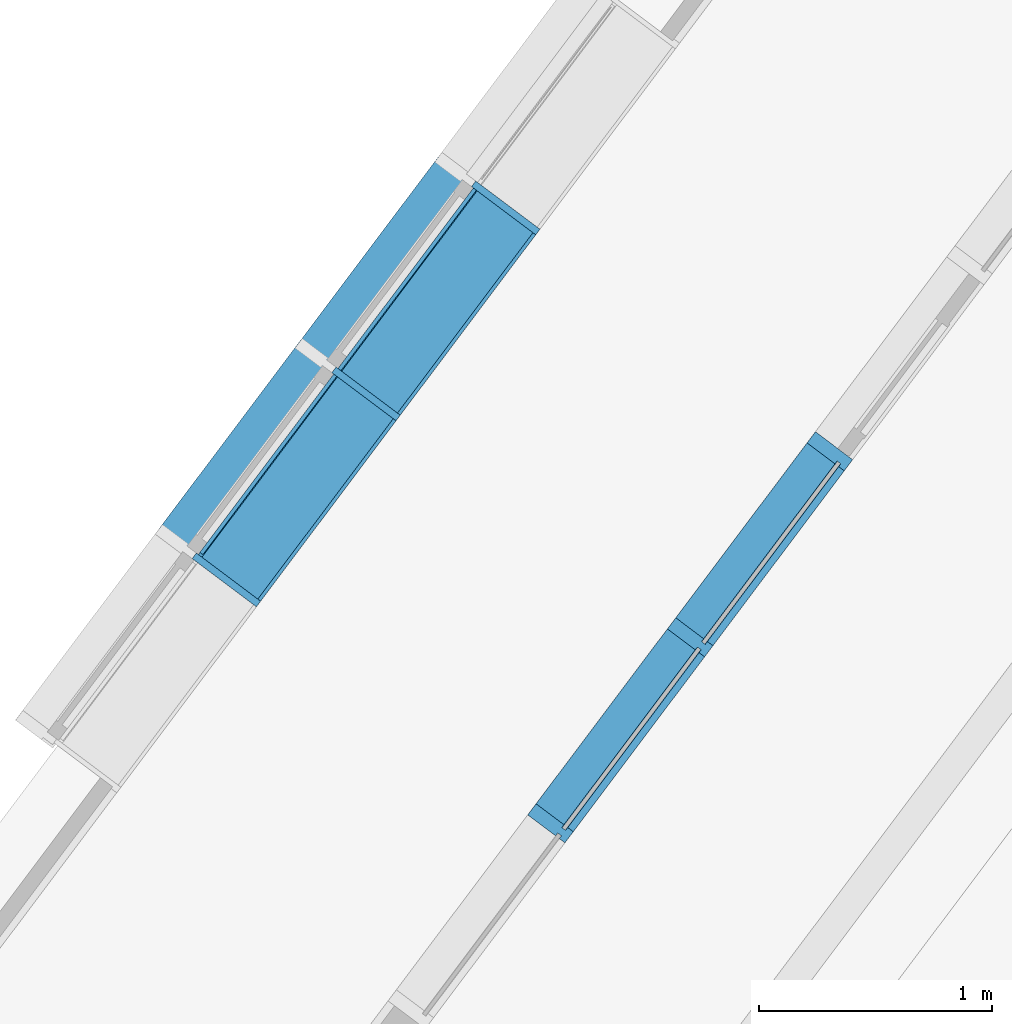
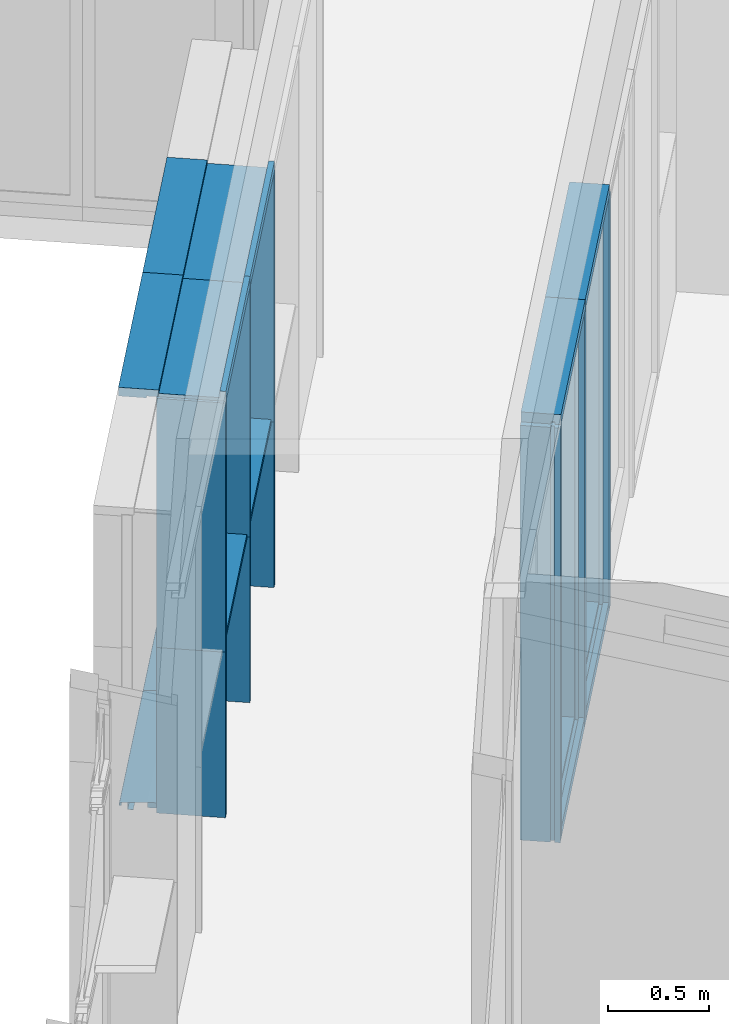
# One storey, part 51 of 243: 21 members, 3 elements without a shape of their own.
"""IFC2X3 building model written with IfcOpenShell, lengths in metres."""

from ifc_helpers import new_model, entity, si_unit, converted_unit, derived_unit, direction, frame, frame_2d, origin, place, context, subcontext, project, spatial, polyline, circle_curve, parameter, trimmed, segment, composite_curve, rectangle, outline, extrude, source, transform, mapped, material, type_object, type_shapes, element, aggregate, save


model = new_model("IFC2X3")

# Units and contexts
model_context = context("Model", 3, precision=1e-05, world=origin(), true_north=direction((6.123031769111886e-17, 1.0)))
body_context = subcontext(model_context, "Body", "Model", "MODEL_VIEW")
ifc_project = project(units=[si_unit("LENGTHUNIT", "METRE"), si_unit("AREAUNIT", "SQUARE_METRE"), si_unit("VOLUMEUNIT", "CUBIC_METRE"), converted_unit("PLANEANGLEUNIT", "DEGREE", entity("IfcRatioMeasure", 0.017453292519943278), si_unit("PLANEANGLEUNIT", "RADIAN"), dimensions=[0, 0, 0, 0, 0, 0, 0]), si_unit("MASSUNIT", "GRAM", prefix="KILO"), derived_unit("MASSDENSITYUNIT", [(si_unit("MASSUNIT", "GRAM", prefix="KILO"), 1), (si_unit("LENGTHUNIT", "METRE"), -3)]), derived_unit("IONCONCENTRATIONUNIT", [(si_unit("MASSUNIT", "GRAM", prefix="KILO"), 1), (si_unit("LENGTHUNIT", "METRE"), -3)]), derived_unit("MOMENTOFINERTIAUNIT", [(si_unit("LENGTHUNIT", "METRE"), 4)]), si_unit("TIMEUNIT", "SECOND"), si_unit("FREQUENCYUNIT", "HERTZ"), si_unit("THERMODYNAMICTEMPERATUREUNIT", "DEGREE_CELSIUS"), derived_unit("THERMALTRANSMITTANCEUNIT", [(si_unit("MASSUNIT", "GRAM", prefix="KILO"), 1), (si_unit("THERMODYNAMICTEMPERATUREUNIT", "KELVIN"), -1), (si_unit("TIMEUNIT", "SECOND"), -3)]), derived_unit("THERMALCONDUCTANCEUNIT", [(si_unit("MASSUNIT", "GRAM", prefix="KILO"), 1), (si_unit("THERMODYNAMICTEMPERATUREUNIT", "KELVIN"), -1), (si_unit("TIMEUNIT", "SECOND"), -3), (si_unit("LENGTHUNIT", "METRE"), 1)]), derived_unit("VOLUMETRICFLOWRATEUNIT", [(si_unit("LENGTHUNIT", "METRE"), 3), (si_unit("TIMEUNIT", "SECOND"), -1)]), derived_unit("MASSFLOWRATEUNIT", [(si_unit("MASSUNIT", "GRAM", prefix="KILO"), 1), (si_unit("TIMEUNIT", "SECOND"), -1)]), derived_unit("ROTATIONALFREQUENCYUNIT", [(si_unit("TIMEUNIT", "SECOND"), -1)]), si_unit("ELECTRICCURRENTUNIT", "AMPERE"), si_unit("ELECTRICVOLTAGEUNIT", "VOLT"), si_unit("POWERUNIT", "WATT"), si_unit("FORCEUNIT", "NEWTON", prefix="KILO"), si_unit("ILLUMINANCEUNIT", "LUX"), si_unit("LUMINOUSFLUXUNIT", "LUMEN"), si_unit("LUMINOUSINTENSITYUNIT", "CANDELA"), derived_unit("USERDEFINED", [(si_unit("MASSUNIT", "GRAM", prefix="KILO"), -1), (si_unit("LENGTHUNIT", "METRE"), -2), (si_unit("TIMEUNIT", "SECOND"), 3), (si_unit("LUMINOUSFLUXUNIT", "LUMEN"), 1)]), derived_unit("USERDEFINED", [(si_unit("MASSUNIT", "GRAM", prefix="KILO"), 1), (si_unit("TIMEUNIT", "SECOND"), -3), (si_unit("LENGTHUNIT", "METRE"), 3), (si_unit("ELECTRICCURRENTUNIT", "AMPERE"), -2)]), derived_unit("SOUNDPOWERUNIT", [(si_unit("MASSUNIT", "GRAM", prefix="KILO"), 1), (si_unit("TIMEUNIT", "SECOND"), -3), (si_unit("LENGTHUNIT", "METRE"), 2)]), derived_unit("SOUNDPRESSUREUNIT", [(si_unit("MASSUNIT", "GRAM", prefix="KILO"), 1), (si_unit("LENGTHUNIT", "METRE"), -1), (si_unit("TIMEUNIT", "SECOND"), -2)]), derived_unit("LINEARVELOCITYUNIT", [(si_unit("LENGTHUNIT", "METRE"), 1), (si_unit("TIMEUNIT", "SECOND"), -1)]), si_unit("PRESSUREUNIT", "PASCAL"), derived_unit("USERDEFINED", [(si_unit("MASSUNIT", "GRAM", prefix="KILO"), 1), (si_unit("LENGTHUNIT", "METRE"), -2), (si_unit("TIMEUNIT", "SECOND"), -2)]), derived_unit("LINEARFORCEUNIT", [(si_unit("MASSUNIT", "GRAM", prefix="KILO"), 1), (si_unit("TIMEUNIT", "SECOND"), -2)]), derived_unit("PLANARFORCEUNIT", [(si_unit("MASSUNIT", "GRAM", prefix="KILO"), 1), (si_unit("LENGTHUNIT", "METRE"), -1), (si_unit("TIMEUNIT", "SECOND"), -2)]), derived_unit("SPECIFICHEATCAPACITYUNIT", [(si_unit("THERMODYNAMICTEMPERATUREUNIT", "KELVIN"), -1), (si_unit("LENGTHUNIT", "METRE"), 2), (si_unit("TIMEUNIT", "SECOND"), -2)]), derived_unit("HEATINGVALUEUNIT", [(si_unit("LENGTHUNIT", "METRE"), 2), (si_unit("TIMEUNIT", "SECOND"), -2)]), derived_unit("VAPORPERMEABILITYUNIT", [(si_unit("LENGTHUNIT", "METRE"), -1), (si_unit("TIMEUNIT", "SECOND"), 1)]), derived_unit("DYNAMICVISCOSITYUNIT", [(si_unit("MASSUNIT", "GRAM", prefix="KILO"), 1), (si_unit("TIMEUNIT", "SECOND"), -1), (si_unit("LENGTHUNIT", "METRE"), -1)]), derived_unit("THERMALEXPANSIONCOEFFICIENTUNIT", [(si_unit("THERMODYNAMICTEMPERATUREUNIT", "KELVIN"), -1)]), derived_unit("MODULUSOFELASTICITYUNIT", [(si_unit("MASSUNIT", "GRAM", prefix="KILO"), 1), (si_unit("LENGTHUNIT", "METRE"), -1), (si_unit("TIMEUNIT", "SECOND"), -2)]), derived_unit("ISOTHERMALMOISTURECAPACITYUNIT", [(si_unit("LENGTHUNIT", "METRE"), 3), (si_unit("MASSUNIT", "GRAM", prefix="KILO"), -1)]), derived_unit("MOISTUREDIFFUSIVITYUNIT", [(si_unit("TIMEUNIT", "SECOND"), -1), (si_unit("LENGTHUNIT", "METRE"), 2)])], contexts=[model_context])

# Site, building, storey
site_placement = place(None, frame((0.0, 0.0, 235.0), z_axis=(0.0, 0.0, 1.0), x_axis=(-0.7996477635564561, 0.6004693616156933, 0.0)))
site = spatial("IfcSite", under=ifc_project, at=site_placement, Name="Default", CompositionType="ELEMENT")
building_placement = place(site_placement, origin())
building = spatial("IfcBuilding", under=site, at=building_placement, CompositionType="ELEMENT")
storey_placement = place(building_placement, origin())
storey = spatial("IfcBuildingStorey", under=building, at=storey_placement, Name="P0- Escola", CompositionType="ELEMENT", Elevation=0.0)

# Curtain wall, members
curtain_wall_type_1 = type_object("IfcCurtainWallType", Name="Muro cortina:MC- INT- a1", PredefinedType="NOTDEFINED")
curtain_wall_1_placement = place(storey_placement, origin())
curtain_wall_1 = element("IfcCurtainWall", 1, at=curtain_wall_1_placement, inside=storey, type_object=curtain_wall_type_1, Name="Muro cortina:MC- INT- a1", ObjectType="Muro cortina:MC- INT- a1")
ifc_material_1 = material(Name="_Fusta massisa- T1")
member_type_1 = type_object("IfcMemberType", Name="Montante rectangular:MC- Fusta- 20x6 cm- Esquerra", PredefinedType="MULLION", material=ifc_material_1)
shared_shape_1 = source(origin(), body_context, "Body", "SweptSolid", [
    extrude(outline(polyline([(-0.07000000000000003, -0.01875000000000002), (-0.04000000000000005, -0.01875000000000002), (-0.04000000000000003, -0.0037500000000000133), (-0.020000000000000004, -0.0037500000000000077), (-0.02, -0.018750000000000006), (0.13, -0.018749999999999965), (0.12999999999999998, 0.04125000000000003), (-0.06999999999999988, 0.04124999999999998), (-0.07000000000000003, -0.01875000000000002)])), frame((-0.01124999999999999, -0.03, -2.5050000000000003), z_axis=(0.0, 0.0, 1.0), x_axis=(0.0, -1.0, 0.0)), (0.0, 0.0, 1.0), 2.5050000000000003),
])
type_shapes(member_type_1, [shared_shape_1])
member_1_placement = place(curtain_wall_1_placement, frame((60.020147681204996, -33.41518997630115, 0.0), z_axis=(0.0, 0.0, -1.0), x_axis=(0.0, -1.0, 0.0)))
member_1 = element("IfcMember", 2, at=member_1_placement, type_object=member_type_1, material=ifc_material_1, Name="Montante rectangular:MC- Fusta- 20x6 cm- Esquerra", ObjectType="Montante rectangular:MC- Fusta- 20x6 cm- Esquerra", context=body_context, shape_type="MappedRepresentation", body=[
    mapped(shared_shape_1, transform((0.0, 0.0, 0.0), scale=1.0)),
])
member_type_2 = type_object("IfcMemberType", Name="Montante rectangular:MC- Fusta- 20x6 cm- Esquerra", PredefinedType="MULLION", material=ifc_material_1)
shared_shape_2 = source(origin(), body_context, "Body", "SweptSolid", [
    extrude(outline(polyline([(-0.07000000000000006, -0.01875000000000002), (-0.04000000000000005, -0.01875000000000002), (-0.04000000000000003, -0.0037500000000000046), (-0.02, -0.0037500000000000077), (-0.019999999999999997, -0.018750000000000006), (0.13, -0.018749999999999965), (0.12999999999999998, 0.04125000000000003), (-0.06999999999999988, 0.04124999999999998), (-0.07000000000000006, -0.01875000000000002)])), frame((-0.041249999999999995, -0.029999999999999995, -1.0), z_axis=(0.0, 0.0, 1.0), x_axis=(0.0, -1.0, 0.0)), (0.0, 0.0, 1.0), 0.9999999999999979),
])
type_shapes(member_type_2, [shared_shape_2])
member_2_placement = place(curtain_wall_1_placement, frame((60.020147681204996, -33.41518997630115, 2.565), z_axis=(0.0, -1.0, 0.0), x_axis=(0.0, 0.0, 1.0)))
member_2 = element("IfcMember", 3, at=member_2_placement, type_object=member_type_2, material=ifc_material_1, Name="Montante rectangular:MC- Fusta- 20x6 cm- Esquerra", ObjectType="Montante rectangular:MC- Fusta- 20x6 cm- Esquerra", context=body_context, shape_type="MappedRepresentation", body=[
    mapped(shared_shape_2, transform((0.0, 0.0, 0.0), scale=1.0)),
])
member_type_3 = type_object("IfcMemberType", Name="Montante rectangular:MC- Fusta- 20x6 cm- Esquerra", PredefinedType="MULLION", material=ifc_material_1)
shared_shape_3 = source(origin(), body_context, "Body", "SweptSolid", [
    extrude(outline(polyline([(-0.07000000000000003, -0.01875000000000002), (-0.04000000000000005, -0.01875000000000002), (-0.04000000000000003, -0.0037500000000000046), (-0.020000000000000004, -0.0037500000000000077), (-0.02, -0.018750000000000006), (0.13, -0.018749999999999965), (0.12999999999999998, 0.04125000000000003), (-0.06999999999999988, 0.04124999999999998), (-0.07000000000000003, -0.01875000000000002)])), frame((-0.041249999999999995, -0.03, -1.0), z_axis=(0.0, 0.0, 1.0), x_axis=(0.0, -1.0, 0.0)), (0.0, 0.0, 1.0), 0.9999999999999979),
])
type_shapes(member_type_3, [shared_shape_3])
member_3_placement = place(curtain_wall_1_placement, frame((60.020147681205, -32.41518997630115, 2.565), z_axis=(0.0, -1.0, 0.0), x_axis=(0.0, 0.0, 1.0)))
member_3 = element("IfcMember", 4, at=member_3_placement, type_object=member_type_3, material=ifc_material_1, Name="Montante rectangular:MC- Fusta- 20x6 cm- Esquerra", ObjectType="Montante rectangular:MC- Fusta- 20x6 cm- Esquerra", context=body_context, shape_type="MappedRepresentation", body=[
    mapped(shared_shape_3, transform((0.0, 0.0, 0.0), scale=1.0)),
])
member_type_4 = type_object("IfcMemberType", Name="Montante rectangular:MC- Fusta- 20x6 cm- Centre", PredefinedType="MULLION", material=ifc_material_1)
shared_shape_4 = source(origin(), body_context, "Body", "SweptSolid", [
    extrude(outline(polyline([(-0.06000000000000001, -0.030000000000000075), (-0.03, -0.030000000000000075), (-0.029999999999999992, -0.015000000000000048), (-0.009999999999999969, -0.01499999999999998), (-0.009999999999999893, -0.030000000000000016), (0.14000000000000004, -0.029999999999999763), (0.13999999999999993, 0.030000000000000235), (-0.010000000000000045, 0.02999999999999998), (-0.01000000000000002, 0.014999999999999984), (-0.030000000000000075, 0.014999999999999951), (-0.03000000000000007, 0.029999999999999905), (-0.059999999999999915, 0.029999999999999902), (-0.06000000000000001, -0.030000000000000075)])), frame((0.0, -0.019999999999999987, -2.505000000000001), z_axis=(0.0, 0.0, 1.0), x_axis=(0.0, -1.0, 0.0)), (0.0, 0.0, 1.0), 2.5050000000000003),
])
type_shapes(member_type_4, [shared_shape_4])
member_4_placement = place(curtain_wall_1_placement, frame((60.020147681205, -32.41518997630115, 0.0), z_axis=(0.0, 0.0, -1.0), x_axis=(0.0, -1.0, 0.0)))
member_4 = element("IfcMember", 5, at=member_4_placement, type_object=member_type_4, material=ifc_material_1, Name="Montante rectangular:MC- Fusta- 20x6 cm- Centre", ObjectType="Montante rectangular:MC- Fusta- 20x6 cm- Centre", context=body_context, shape_type="MappedRepresentation", body=[
    mapped(shared_shape_4, transform((0.0, 0.0, 0.0), scale=1.0)),
])
member_5_placement = place(curtain_wall_1_placement, frame((60.020147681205, -31.415189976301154, 0.0), z_axis=(0.0, 0.0, -1.0), x_axis=(0.0, -1.0, 0.0)))
member_5 = element("IfcMember", 6, at=member_5_placement, type_object=member_type_4, material=ifc_material_1, Name="Montante rectangular:MC- Fusta- 20x6 cm- Centre", ObjectType="Montante rectangular:MC- Fusta- 20x6 cm- Centre", context=body_context, shape_type="MappedRepresentation", body=[
    mapped(shared_shape_4, transform((0.0, 0.0, 0.0), scale=1.0)),
])
member_type_5 = type_object("IfcMemberType", Name="Montante rectangular:MC- Fusta- 20x6 cm- Inferior", PredefinedType="MULLION", material=ifc_material_1)
shared_shape_5 = source(origin(), body_context, "Body", "SweptSolid", [
    extrude(outline(polyline([(-0.06999999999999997, -0.018750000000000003), (-0.039999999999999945, -0.018750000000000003), (-0.03999999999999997, -0.003750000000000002), (-0.019999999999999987, -0.0037500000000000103), (-0.019999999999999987, -0.018750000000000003), (0.13000000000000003, -0.018750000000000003), (0.13000000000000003, 0.041249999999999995), (-0.07000000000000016, 0.041249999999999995), (-0.06999999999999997, -0.018750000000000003)])), frame((-0.041249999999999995, -0.02999999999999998, -0.9399999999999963), z_axis=(0.0, 0.0, 1.0), x_axis=(0.0, -1.0, 0.0)), (0.0, 0.0, 1.0), 0.9399999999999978),
])
type_shapes(member_type_5, [shared_shape_5])
member_6_placement = place(curtain_wall_1_placement, frame((60.020147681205, -32.44518997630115, 0.0), z_axis=(0.0, 1.0, 0.0), x_axis=(0.0, 0.0, -1.0)))
member_6 = element("IfcMember", 7, at=member_6_placement, type_object=member_type_5, material=ifc_material_1, Name="Montante rectangular:MC- Fusta- 20x6 cm- Inferior", ObjectType="Montante rectangular:MC- Fusta- 20x6 cm- Inferior", context=body_context, shape_type="MappedRepresentation", body=[
    mapped(shared_shape_5, transform((0.0, 0.0, 0.0), scale=1.0)),
])
member_7_placement = place(curtain_wall_1_placement, frame((60.020147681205, -31.445189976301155, 0.0), z_axis=(0.0, 1.0, 0.0), x_axis=(0.0, 0.0, -1.0)))
member_7 = element("IfcMember", 8, at=member_7_placement, type_object=member_type_5, material=ifc_material_1, Name="Montante rectangular:MC- Fusta- 20x6 cm- Inferior", ObjectType="Montante rectangular:MC- Fusta- 20x6 cm- Inferior", context=body_context, shape_type="MappedRepresentation", body=[
    mapped(shared_shape_5, transform((0.0, 0.0, 0.0), scale=1.0)),
])
aggregate(curtain_wall_1, [member_2, member_1, member_3, member_4, member_5, member_6, member_7])

curtain_wall_type_2 = type_object("IfcCurtainWallType", Name="Muro cortina:MC- INT- k2", PredefinedType="NOTDEFINED")
curtain_wall_2_placement = place(storey_placement, origin())
curtain_wall_2 = element("IfcCurtainWall", 9, at=curtain_wall_2_placement, inside=storey, type_object=curtain_wall_type_2, Name="Muro cortina:MC- INT- k2", ObjectType="Muro cortina:MC- INT- k2")
member_type_6 = type_object("IfcMemberType", Name="Montante rectangular:MC- Fusta- 35x3 cm- Centre", PredefinedType="MULLION", material=ifc_material_1)
shared_shape_6 = source(origin(), body_context, "Body", "SweptSolid", [
    extrude(rectangle(XDim=0.3450000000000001, YDim=0.030000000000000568, at=frame_2d((0.0, -1.3964523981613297e-16), x_axis=(1.0, 0.0))), frame((0.0, -0.07750000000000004, -1.0), z_axis=(0.0, 0.0, 1.0), x_axis=(0.0, -1.0, 0.0)), (0.0, 0.0, 1.0), 1.0),
])
type_shapes(member_type_6, [shared_shape_6])
member_8_placement = place(curtain_wall_2_placement, frame((61.745147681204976, -31.41519175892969, 0.0), z_axis=(0.0, 0.0, -1.0), x_axis=(0.0, -1.0, 0.0)))
member_8 = element("IfcMember", 10, at=member_8_placement, type_object=member_type_6, material=ifc_material_1, Name="Montante rectangular:MC- Fusta- 35x3 cm- Centre", ObjectType="Montante rectangular:MC- Fusta- 35x3 cm- Centre", context=body_context, shape_type="MappedRepresentation", body=[
    mapped(shared_shape_6, transform((0.0, 0.0, 0.0), scale=1.0)),
])
member_9_placement = place(curtain_wall_2_placement, frame((61.745147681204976, -32.41519175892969, 0.0), z_axis=(0.0, 0.0, -1.0), x_axis=(0.0, -1.0, 0.0)))
member_9 = element("IfcMember", 11, at=member_9_placement, type_object=member_type_6, material=ifc_material_1, Name="Montante rectangular:MC- Fusta- 35x3 cm- Centre", ObjectType="Montante rectangular:MC- Fusta- 35x3 cm- Centre", context=body_context, shape_type="MappedRepresentation", body=[
    mapped(shared_shape_6, transform((0.0, 0.0, 0.0), scale=1.0)),
])
member_10_placement = place(curtain_wall_2_placement, frame((61.745147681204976, -33.41519175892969, 0.0), z_axis=(0.0, 0.0, -1.0), x_axis=(0.0, -1.0, 0.0)))
member_10 = element("IfcMember", 12, at=member_10_placement, type_object=member_type_6, material=ifc_material_1, Name="Montante rectangular:MC- Fusta- 35x3 cm- Centre", ObjectType="Montante rectangular:MC- Fusta- 35x3 cm- Centre", context=body_context, shape_type="MappedRepresentation", body=[
    mapped(shared_shape_6, transform((0.0, 0.0, 0.0), scale=1.0)),
])
member_type_7 = type_object("IfcMemberType", Name="Montante rectangular:MC- Fusta- 35x3 cm- Pati aules- Remat superior", PredefinedType="MULLION", material=ifc_material_1)
shared_shape_7 = source(origin(), body_context, "Body", "SweptSolid", [
    extrude(outline(polyline([(-0.12166666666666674, -0.02666666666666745), (0.21333333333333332, -0.02666666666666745), (0.2133333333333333, -0.006666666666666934), (-0.09166666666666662, -0.006666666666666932), (-0.09166666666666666, 0.03333333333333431), (-0.12166666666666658, 0.03333333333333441), (-0.12166666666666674, -0.02666666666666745)])), frame((-0.033333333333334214, -0.026666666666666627, -1.0), z_axis=(0.0, 0.0, 1.0), x_axis=(0.0, -1.0, 0.0)), (0.0, 0.0, 1.0), 0.9999999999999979),
])
type_shapes(member_type_7, [shared_shape_7])
member_11_placement = place(curtain_wall_2_placement, frame((61.745147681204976, -32.41519175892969, 2.565), z_axis=(0.0, -1.0, 0.0), x_axis=(0.0, 0.0, 1.0)))
member_11 = element("IfcMember", 13, at=member_11_placement, type_object=member_type_7, material=ifc_material_1, Name="Montante rectangular:MC- Fusta- 35x3 cm- Pati aules- Remat superior", ObjectType="Montante rectangular:MC- Fusta- 35x3 cm- Pati aules- Remat superior", context=body_context, shape_type="MappedRepresentation", body=[
    mapped(shared_shape_7, transform((0.0, 0.0, 0.0), scale=1.0)),
])
member_12_placement = place(curtain_wall_2_placement, frame((61.745147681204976, -33.41519175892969, 2.565), z_axis=(0.0, -1.0, 0.0), x_axis=(0.0, 0.0, 1.0)))
member_12 = element("IfcMember", 14, at=member_12_placement, type_object=member_type_7, material=ifc_material_1, Name="Montante rectangular:MC- Fusta- 35x3 cm- Pati aules- Remat superior", ObjectType="Montante rectangular:MC- Fusta- 35x3 cm- Pati aules- Remat superior", context=body_context, shape_type="MappedRepresentation", body=[
    mapped(shared_shape_7, transform((0.0, 0.0, 0.0), scale=1.0)),
])
member_type_8 = type_object("IfcMemberType", Name="Montante rectangular:MC- Fusta- 35x3 cm- Pati aules- Prestatge", PredefinedType="MULLION", material=ifc_material_1)
shared_shape_8 = source(origin(), body_context, "Body", "SweptSolid", [
    extrude(rectangle(XDim=0.30000000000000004, YDim=0.03000000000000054, at=frame_2d((0.0, -1.231653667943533e-16), x_axis=(1.0, 0.0))), frame((0.0, -0.07000000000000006, -0.9699999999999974), z_axis=(0.0, 0.0, 1.0), x_axis=(0.0, -1.0, 0.0)), (0.0, 0.0, 1.0), 0.969999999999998),
])
type_shapes(member_type_8, [shared_shape_8])
member_13_placement = place(curtain_wall_2_placement, frame((61.745147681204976, -32.40019175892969, 1.0), z_axis=(0.0, -1.0, 0.0), x_axis=(0.0, 0.0, 1.0)))
member_13 = element("IfcMember", 15, at=member_13_placement, type_object=member_type_8, material=ifc_material_1, Name="Montante rectangular:MC- Fusta- 35x3 cm- Pati aules- Prestatge", ObjectType="Montante rectangular:MC- Fusta- 35x3 cm- Pati aules- Prestatge", context=body_context, shape_type="MappedRepresentation", body=[
    mapped(shared_shape_8, transform((0.0, 0.0, 0.0), scale=1.0)),
])
member_14_placement = place(curtain_wall_2_placement, frame((61.745147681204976, -33.40019175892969, 1.0), z_axis=(0.0, -1.0, 0.0), x_axis=(0.0, 0.0, 1.0)))
member_14 = element("IfcMember", 16, at=member_14_placement, type_object=member_type_8, material=ifc_material_1, Name="Montante rectangular:MC- Fusta- 35x3 cm- Pati aules- Prestatge", ObjectType="Montante rectangular:MC- Fusta- 35x3 cm- Pati aules- Prestatge", context=body_context, shape_type="MappedRepresentation", body=[
    mapped(shared_shape_8, transform((0.0, 0.0, 0.0), scale=1.0)),
])
member_type_9 = type_object("IfcMemberType", Name="Montante rectangular:MC- Fusta- 35x3 cm- Centre", PredefinedType="MULLION", material=ifc_material_1)
shared_shape_9 = source(origin(), body_context, "Body", "SweptSolid", [
    extrude(rectangle(XDim=0.3450000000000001, YDim=0.030000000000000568, at=frame_2d((0.0, -1.3964523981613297e-16), x_axis=(1.0, 0.0))), frame((0.0, -0.07750000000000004, -1.504999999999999), z_axis=(0.0, 0.0, 1.0), x_axis=(0.0, -1.0, 0.0)), (0.0, 0.0, 1.0), 1.504999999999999),
])
type_shapes(member_type_9, [shared_shape_9])
member_15_placement = place(curtain_wall_2_placement, frame((61.745147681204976, -31.41519175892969, 1.0), z_axis=(0.0, 0.0, -1.0), x_axis=(0.0, -1.0, 0.0)))
member_15 = element("IfcMember", 17, at=member_15_placement, type_object=member_type_9, material=ifc_material_1, Name="Montante rectangular:MC- Fusta- 35x3 cm- Centre", ObjectType="Montante rectangular:MC- Fusta- 35x3 cm- Centre", context=body_context, shape_type="MappedRepresentation", body=[
    mapped(shared_shape_9, transform((0.0, 0.0, 0.0), scale=1.0)),
])
member_16_placement = place(curtain_wall_2_placement, frame((61.745147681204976, -32.41519175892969, 1.0), z_axis=(0.0, 0.0, -1.0), x_axis=(0.0, -1.0, 0.0)))
member_16 = element("IfcMember", 18, at=member_16_placement, type_object=member_type_9, material=ifc_material_1, Name="Montante rectangular:MC- Fusta- 35x3 cm- Centre", ObjectType="Montante rectangular:MC- Fusta- 35x3 cm- Centre", context=body_context, shape_type="MappedRepresentation", body=[
    mapped(shared_shape_9, transform((0.0, 0.0, 0.0), scale=1.0)),
])
member_17_placement = place(curtain_wall_2_placement, frame((61.745147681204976, -33.41519175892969, 1.0), z_axis=(0.0, 0.0, -1.0), x_axis=(0.0, -1.0, 0.0)))
member_17 = element("IfcMember", 19, at=member_17_placement, type_object=member_type_9, material=ifc_material_1, Name="Montante rectangular:MC- Fusta- 35x3 cm- Centre", ObjectType="Montante rectangular:MC- Fusta- 35x3 cm- Centre", context=body_context, shape_type="MappedRepresentation", body=[
    mapped(shared_shape_9, transform((0.0, 0.0, 0.0), scale=1.0)),
])
aggregate(curtain_wall_2, [member_8, member_11, member_9, member_12, member_10, member_13, member_14, member_15, member_16, member_17])

curtain_wall_type_3 = type_object("IfcCurtainWallType", Name="Muro cortina:MC- EXT- MC5", PredefinedType="NOTDEFINED")
curtain_wall_3_placement = place(storey_placement, origin())
curtain_wall_3 = element("IfcCurtainWall", 20, at=curtain_wall_3_placement, inside=storey, type_object=curtain_wall_type_3, Name="Muro cortina:MC- EXT- MC5", ObjectType="Muro cortina:MC- EXT- MC5")
ifc_material_2 = material(Name="_Alumini- T1- Perfil")
member_type_10 = type_object("IfcMemberType", Name="Montante rectangular:MC- Alu- 140x52,5 cm- Fa patis- inferior", PredefinedType="MULLION", material=ifc_material_2)
shared_shape_10 = source(origin(), body_context, "Body", "SweptSolid", [
    extrude(outline(composite_curve([segment(polyline([(-0.144167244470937, -0.025867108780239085), (-0.12786724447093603, -0.02586710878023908)]), True, "CONTINUOUS"), segment(polyline([(-0.12786724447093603, -0.02586710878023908), (-0.12786724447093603, -0.023167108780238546)]), True, "CONTINUOUS"), segment(polyline([(-0.12786724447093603, -0.023167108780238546), (-0.0678672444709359, -0.023167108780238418)]), True, "CONTINUOUS"), segment(polyline([(-0.0678672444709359, -0.023167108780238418), (0.07031215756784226, -0.010722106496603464)]), True, "CONTINUOUS"), segment(trimmed(circle_curve(frame_2d((0.07013275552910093, -0.008730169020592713), x_axis=(0.0897010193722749, -0.9959687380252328)), 0.0019999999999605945), [parameter(0.0)], [parameter(84.8535928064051)], True, "PARAMETER"), True, "CONTINUOUS"), segment(polyline([(0.07213275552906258, -0.008730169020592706), (0.07213275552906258, 0.006266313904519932)]), True, "CONTINUOUS"), segment(trimmed(circle_curve(frame_2d((0.07013275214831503, 0.006266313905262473), x_axis=(1.0, 0.0)), 0.0020000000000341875), [parameter(0.0)], [parameter(90.00000002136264)], True, "PARAMETER"), True, "CONTINUOUS"), segment(polyline([(0.070132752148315, 0.008266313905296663), (0.06213275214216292, 0.008266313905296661)]), True, "CONTINUOUS"), segment(polyline([(0.06213275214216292, 0.008266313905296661), (0.06213275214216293, 0.006266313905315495)]), True, "CONTINUOUS"), segment(polyline([(0.06213275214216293, 0.006266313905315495), (0.06963275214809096, 0.006266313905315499)]), True, "CONTINUOUS"), segment(trimmed(circle_curve(frame_2d((0.06963275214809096, 0.005766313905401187), x_axis=(0.0, 1.0)), 0.0004999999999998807), [parameter(269.9999999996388)], [parameter(0.0)], True, "PARAMETER"), False, "CONTINUOUS"), segment(polyline([(0.07013275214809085, 0.005766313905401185), (0.07013275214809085, -0.008730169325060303)]), True, "CONTINUOUS"), segment(polyline([(0.07013275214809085, -0.008730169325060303), (0.03213275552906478, -0.012152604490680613)]), True, "CONTINUOUS"), segment(polyline([(0.03213275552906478, -0.0121526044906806), (0.03213275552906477, 0.029132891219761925)]), True, "CONTINUOUS"), segment(polyline([(0.03213275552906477, 0.029132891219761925), (0.0021327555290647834, 0.029132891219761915)]), True, "CONTINUOUS"), segment(polyline([(0.0021327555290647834, 0.029132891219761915), (0.0021327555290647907, 0.02713289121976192)]), True, "CONTINUOUS"), segment(polyline([(0.0021327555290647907, 0.02713289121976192), (0.03013275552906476, 0.02713289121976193)]), True, "CONTINUOUS"), segment(polyline([(0.03013275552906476, 0.027132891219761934), (0.03013275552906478, -0.012332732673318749)]), True, "CONTINUOUS"), segment(polyline([(0.03013275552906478, -0.012332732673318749), (-0.06786724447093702, -0.021159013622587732)]), True, "CONTINUOUS"), segment(polyline([(-0.06786724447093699, -0.02115901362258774), (-0.067867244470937, 0.009132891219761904)]), True, "CONTINUOUS"), segment(polyline([(-0.06786724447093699, 0.009132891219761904), (-0.14416724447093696, 0.009132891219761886)]), True, "CONTINUOUS"), segment(polyline([(-0.14416724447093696, 0.009132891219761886), (-0.144167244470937, -0.025867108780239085)]), True, "CONTINUOUS")], self_intersect=False)), frame((-0.029132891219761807, -0.06786724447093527, -0.9737499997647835), z_axis=(0.0, 0.0, 1.0), x_axis=(0.0, -1.0, 0.0)), (0.0, 0.0, 1.0), 0.9737499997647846),
])
type_shapes(member_type_10, [shared_shape_10])
member_18_placement = place(curtain_wall_3_placement, frame((62.045147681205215, -31.441441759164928, -0.02), z_axis=(0.0, 1.0, 0.0), x_axis=(0.0, 0.0, -1.0)))
member_18 = element("IfcMember", 21, at=member_18_placement, type_object=member_type_10, material=ifc_material_2, Name="Montante rectangular:MC- Alu- 140x52,5 cm- Fa patis- inferior", ObjectType="Montante rectangular:MC- Alu- 140x52,5 cm- Fa patis- inferior", context=body_context, shape_type="MappedRepresentation", body=[
    mapped(shared_shape_10, transform((0.0, 0.0, 0.0), scale=1.0)),
])
member_type_11 = type_object("IfcMemberType", Name="Montante rectangular:MC- Alu- 140x52,5 cm- Fa patis- Superior", PredefinedType="MULLION", material=ifc_material_2)
shared_shape_11 = source(origin(), body_context, "Body", "SweptSolid", [
    extrude(outline(polyline([(-0.026333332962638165, -0.021249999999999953), (0.11366666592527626, -0.021249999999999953), (0.11366666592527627, 0.031250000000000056), (-0.08733333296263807, 0.03125000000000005), (-0.0873333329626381, -0.010000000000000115), (-0.026333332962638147, -0.010000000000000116), (-0.026333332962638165, -0.021249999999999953)])), frame((-0.031250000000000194, -0.02733333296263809, -1.0), z_axis=(0.0, 0.0, 1.0), x_axis=(0.0, -1.0, 0.0)), (0.0, 0.0, 1.0), 1.0000000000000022),
])
type_shapes(member_type_11, [shared_shape_11])
member_19_placement = place(curtain_wall_3_placement, frame((62.045147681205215, -32.415191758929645, 2.545), z_axis=(0.0, -1.0, 0.0), x_axis=(0.0, 0.0, 1.0)))
member_19 = element("IfcMember", 22, at=member_19_placement, type_object=member_type_11, material=ifc_material_2, Name="Montante rectangular:MC- Alu- 140x52,5 cm- Fa patis- Superior", ObjectType="Montante rectangular:MC- Alu- 140x52,5 cm- Fa patis- Superior", context=body_context, shape_type="MappedRepresentation", body=[
    mapped(shared_shape_11, transform((0.0, 0.0, 0.0), scale=1.0)),
])
member_20_placement = place(curtain_wall_3_placement, frame((62.045147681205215, -33.41519175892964, 2.545), z_axis=(0.0, -1.0, 0.0), x_axis=(0.0, 0.0, 1.0)))
member_20 = element("IfcMember", 23, at=member_20_placement, type_object=member_type_11, material=ifc_material_2, Name="Montante rectangular:MC- Alu- 140x52,5 cm- Fa patis- Superior", ObjectType="Montante rectangular:MC- Alu- 140x52,5 cm- Fa patis- Superior", context=body_context, shape_type="MappedRepresentation", body=[
    mapped(shared_shape_11, transform((0.0, 0.0, 0.0), scale=1.0)),
])
member_type_12 = type_object("IfcMemberType", Name="Montante rectangular:MC- Alu- 140x52,5 cm- Fa patis- inferior", PredefinedType="MULLION", material=ifc_material_2)
shared_shape_12 = source(origin(), body_context, "Body", "SweptSolid", [
    extrude(outline(composite_curve([segment(polyline([(-0.144167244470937, -0.02586710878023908), (-0.12786724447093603, -0.025867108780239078)]), True, "CONTINUOUS"), segment(polyline([(-0.12786724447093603, -0.025867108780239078), (-0.12786724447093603, -0.023167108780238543)]), True, "CONTINUOUS"), segment(polyline([(-0.12786724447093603, -0.023167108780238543), (-0.0678672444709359, -0.023167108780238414)]), True, "CONTINUOUS"), segment(polyline([(-0.0678672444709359, -0.023167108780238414), (0.07031215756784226, -0.01072210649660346)]), True, "CONTINUOUS"), segment(trimmed(circle_curve(frame_2d((0.07013275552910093, -0.00873016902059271), x_axis=(0.0897010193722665, -0.9959687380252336)), 0.0019999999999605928), [parameter(0.0)], [parameter(84.85359280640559)], True, "PARAMETER"), True, "CONTINUOUS"), segment(polyline([(0.07213275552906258, -0.008730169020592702), (0.07213275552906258, 0.006266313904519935)]), True, "CONTINUOUS"), segment(trimmed(circle_curve(frame_2d((0.070132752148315, 0.0062663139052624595), x_axis=(1.0, 0.0)), 0.0020000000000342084), [parameter(0.0)], [parameter(90.00000002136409)], True, "PARAMETER"), True, "CONTINUOUS"), segment(polyline([(0.070132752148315, 0.008266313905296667), (0.06213275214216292, 0.008266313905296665)]), True, "CONTINUOUS"), segment(polyline([(0.06213275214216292, 0.008266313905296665), (0.06213275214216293, 0.006266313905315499)]), True, "CONTINUOUS"), segment(polyline([(0.06213275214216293, 0.006266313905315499), (0.06963275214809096, 0.006266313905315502)]), True, "CONTINUOUS"), segment(trimmed(circle_curve(frame_2d((0.06963275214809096, 0.005766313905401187), x_axis=(0.0, 1.0)), 0.000499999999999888), [parameter(269.9999999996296)], [parameter(0.0)], True, "PARAMETER"), False, "CONTINUOUS"), segment(polyline([(0.07013275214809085, 0.005766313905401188), (0.07013275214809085, -0.0087301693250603)]), True, "CONTINUOUS"), segment(polyline([(0.07013275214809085, -0.0087301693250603), (0.03213275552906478, -0.01215260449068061)]), True, "CONTINUOUS"), segment(polyline([(0.03213275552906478, -0.012152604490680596), (0.03213275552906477, 0.02913289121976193)]), True, "CONTINUOUS"), segment(polyline([(0.03213275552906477, 0.02913289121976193), (0.0021327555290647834, 0.029132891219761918)]), True, "CONTINUOUS"), segment(polyline([(0.0021327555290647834, 0.029132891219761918), (0.0021327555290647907, 0.027132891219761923)]), True, "CONTINUOUS"), segment(polyline([(0.0021327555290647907, 0.027132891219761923), (0.03013275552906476, 0.027132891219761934)]), True, "CONTINUOUS"), segment(polyline([(0.03013275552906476, 0.027132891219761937), (0.03013275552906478, -0.012332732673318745)]), True, "CONTINUOUS"), segment(polyline([(0.03013275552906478, -0.012332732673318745), (-0.06786724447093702, -0.02115901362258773)]), True, "CONTINUOUS"), segment(polyline([(-0.06786724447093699, -0.021159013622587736), (-0.067867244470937, 0.009132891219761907)]), True, "CONTINUOUS"), segment(polyline([(-0.06786724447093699, 0.009132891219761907), (-0.14416724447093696, 0.00913289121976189)]), True, "CONTINUOUS"), segment(polyline([(-0.14416724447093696, 0.00913289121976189), (-0.144167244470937, -0.02586710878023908)]), True, "CONTINUOUS")], self_intersect=False)), frame((-0.02913289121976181, -0.06786724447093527, -1.0), z_axis=(0.0, 0.0, 1.0), x_axis=(0.0, -1.0, 0.0)), (0.0, 0.0, 1.0), 0.9999999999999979),
])
type_shapes(member_type_12, [shared_shape_12])
member_21_placement = place(curtain_wall_3_placement, frame((62.045147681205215, -32.415191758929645, -0.02), z_axis=(0.0, 1.0, 0.0), x_axis=(0.0, 0.0, -1.0)))
member_21 = element("IfcMember", 24, at=member_21_placement, type_object=member_type_12, material=ifc_material_2, Name="Montante rectangular:MC- Alu- 140x52,5 cm- Fa patis- inferior", ObjectType="Montante rectangular:MC- Alu- 140x52,5 cm- Fa patis- inferior", context=body_context, shape_type="MappedRepresentation", body=[
    mapped(shared_shape_12, transform((0.0, 0.0, 0.0), scale=1.0)),
])
aggregate(curtain_wall_3, [member_18, member_19, member_21, member_20])

save(model, "model.ifc")
